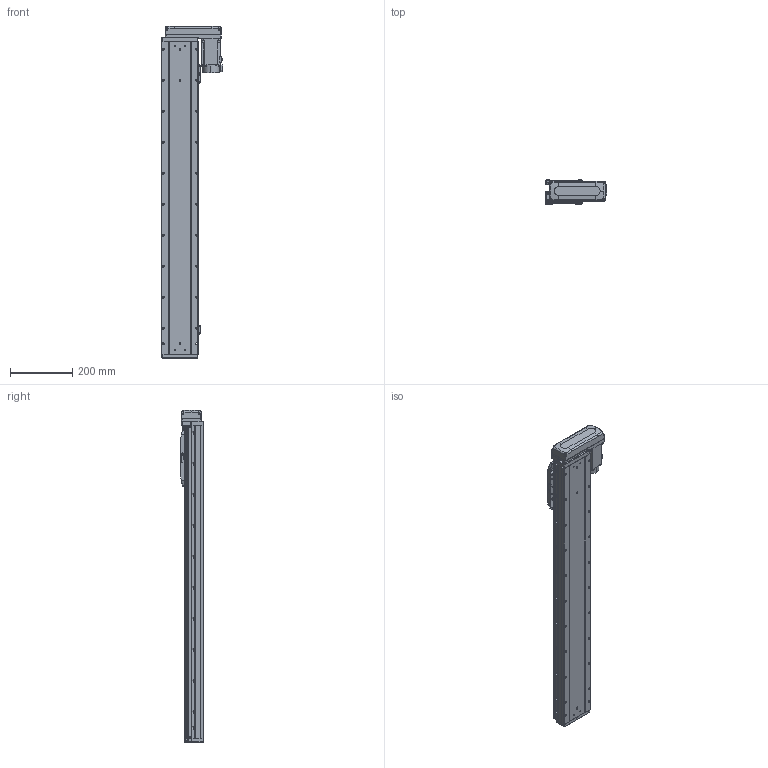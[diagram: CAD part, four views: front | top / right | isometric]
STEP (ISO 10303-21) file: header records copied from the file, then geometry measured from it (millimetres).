
FILE_DESCRIPTION (( 'STEP AP203' ), '1' );
FILE_NAME ('GTH12-800-BL-M40-C4.step', '2022-09-29T01:56:27', ( '微软用户' ), ( '微软中国' ), 'SwSTEP 2.0', 'SolidWorks 2020', '' );
FILE_SCHEMA (( 'CONFIG_CONTROL_DESIGN' ));
Length unit declared in the file: millimetre
Products named in the file (18): hg-kn43j_-s100_; GTH120-003; GTH80-022; CTHA86-033_M40B; GTH120-006; GTH80-028; GTH120-027-1_GTH120-027-2; GTH120-004; GTH50-023; GTH12-800-BL-M40-C4; GTH120-013; GTH50-024; GBT 70.1-M3℅6; GBT96.1-2002 3×0.8; GBT 70.1-M5×16; BTH-M3X5X6; GTH120-001_800; GBT 70.3-M3℅8
Assembly tree (59 placements, depth 2):
  GTH12-800-BL-M40-C4
    GTH120-001_800
    GTH120-003
    GTH120-006
    GTH120-004
    GTH120-013
    GBT 70.1-M3℅6  x14
    GBT 70.1-M5×16  x10
    GBT 70.3-M3℅8  x4
    GTH80-022
    GTH80-028  x2
    GTH50-023  x3
    GTH50-024  x3
    GBT96.1-2002 3×0.8  x6
    BTH-M3X5X6  x8
    hg-kn43j_-s100_
    CTHA86-033_M40B
    GTH120-027-1_GTH120-027-2
Bounding box: 199.8 x 76 x 1070.5 mm (x, y, z)
Volume: 7830181.4 mm3; surface area: 700736.3 mm2
Topology: 61 solids, 61 shells, 2499 faces, 5844 edges, 3587 vertices
Faces by surface type: plane 1280, cylinder 731, cone 300, torus 174, sphere 8, bspline 6
Entity records: 47314 total; most frequent: CARTESIAN_POINT 8016, DIRECTION 7852, ORIENTED_EDGE 7298, EDGE_CURVE 3649, AXIS2_PLACEMENT_3D 2744, VECTOR 2364, LINE 2364, VERTEX_POINT 2308
